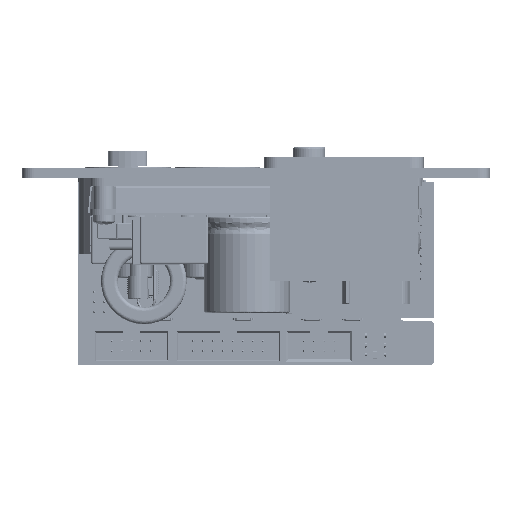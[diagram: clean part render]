
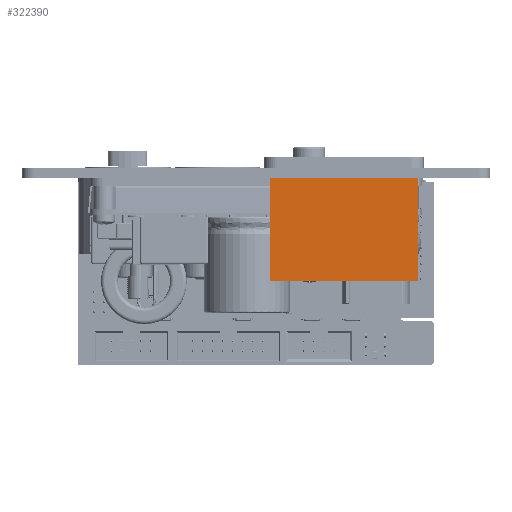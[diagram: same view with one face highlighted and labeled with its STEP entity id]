
A CAD part, front view. The second image highlights one B-rep face of the part: STEP entity #322390.
In plain terms, the highlighted planar face has unit normal (0, -1, 0) as drawn and (1, 0, 0) by its records, which use the part's own axes.
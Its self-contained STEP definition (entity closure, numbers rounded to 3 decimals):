
#25074 = DIRECTION ( 'NONE',  ( 0., 0., 1. ) ) ;
#38316 = LINE ( 'NONE', #1141252, #1078432 ) ;
#78124 = LINE ( 'NONE', #749181, #473453 ) ;
#103523 = LINE ( 'NONE', #481707, #220619 ) ;
#117805 = DIRECTION ( 'NONE',  ( 0., -1., 0. ) ) ;
#147844 = EDGE_CURVE ( 'NONE', #232148, #970529, #103523, .T. ) ;
#197841 = EDGE_CURVE ( 'NONE', #970529, #990316, #38316, .T. ) ;
#220619 = VECTOR ( 'NONE', #117805, 1000. ) ;
#232148 = VERTEX_POINT ( 'NONE', #254279 ) ;
#254279 = CARTESIAN_POINT ( 'NONE',  ( 13.45, 19., -31.9 ) ) ;
#299604 = ORIENTED_EDGE ( 'NONE', *, *, #197841, .F. ) ;
#322390 = ADVANCED_FACE ( 'NONE', ( #1206477 ), #760652, .F. ) ;
#364103 = ORIENTED_EDGE ( 'NONE', *, *, #147844, .F. ) ;
#404208 = EDGE_CURVE ( 'NONE', #514980, #990316, #737665, .T. ) ;
#473453 = VECTOR ( 'NONE', #25074, 1000. ) ;
#481707 = CARTESIAN_POINT ( 'NONE',  ( 13.45, -19., -31.9 ) ) ;
#483777 = DIRECTION ( 'NONE',  ( 0., -1., 0. ) ) ;
#514980 = VERTEX_POINT ( 'NONE', #861276 ) ;
#533517 = CARTESIAN_POINT ( 'NONE',  ( 13.45, -19., -31.9 ) ) ;
#561764 = VECTOR ( 'NONE', #483777, 1000. ) ;
#654662 = DIRECTION ( 'NONE',  ( 0., 0., 1. ) ) ;
#671907 = CARTESIAN_POINT ( 'NONE',  ( 13.45, -19., -3. ) ) ;
#685553 = EDGE_CURVE ( 'NONE', #232148, #514980, #78124, .T. ) ;
#737665 = LINE ( 'NONE', #671907, #561764 ) ;
#749181 = CARTESIAN_POINT ( 'NONE',  ( 13.45, 19., -31.9 ) ) ;
#760652 = PLANE ( 'NONE',  #1060496 ) ;
#854663 = DIRECTION ( 'NONE',  ( -1., 0., 0. ) ) ;
#861276 = CARTESIAN_POINT ( 'NONE',  ( 13.45, 19., -3. ) ) ;
#937003 = CARTESIAN_POINT ( 'NONE',  ( 13.45, -19., -31.9 ) ) ;
#948608 = DIRECTION ( 'NONE',  ( 0., 0., 1. ) ) ;
#970529 = VERTEX_POINT ( 'NONE', #533517 ) ;
#990316 = VERTEX_POINT ( 'NONE', #1013056 ) ;
#996822 = EDGE_LOOP ( 'NONE', ( #1055404, #299604, #364103, #1095798 ) ) ;
#1013056 = CARTESIAN_POINT ( 'NONE',  ( 13.45, -19., -3. ) ) ;
#1055404 = ORIENTED_EDGE ( 'NONE', *, *, #404208, .T. ) ;
#1060496 = AXIS2_PLACEMENT_3D ( 'NONE', #937003, #854663, #654662 ) ;
#1078432 = VECTOR ( 'NONE', #948608, 1000. ) ;
#1095798 = ORIENTED_EDGE ( 'NONE', *, *, #685553, .T. ) ;
#1141252 = CARTESIAN_POINT ( 'NONE',  ( 13.45, -19., -31.9 ) ) ;
#1206477 = FACE_OUTER_BOUND ( 'NONE', #996822, .T. ) ;
